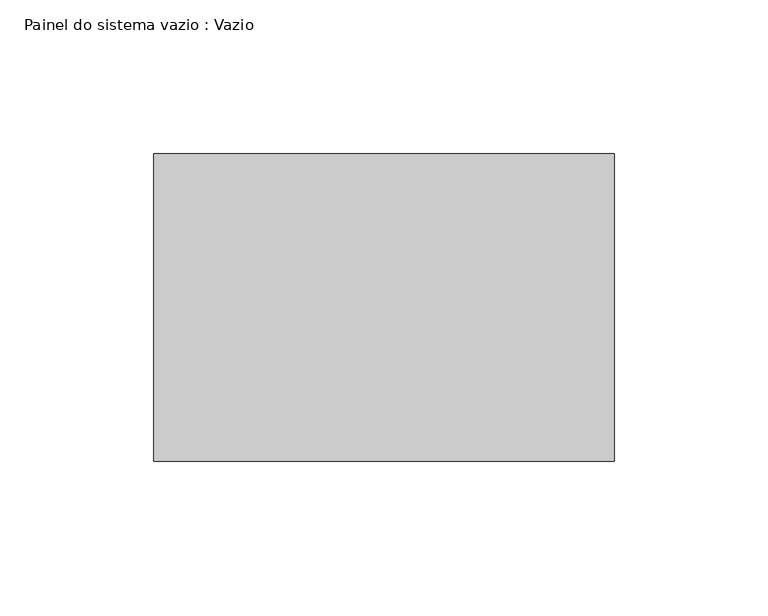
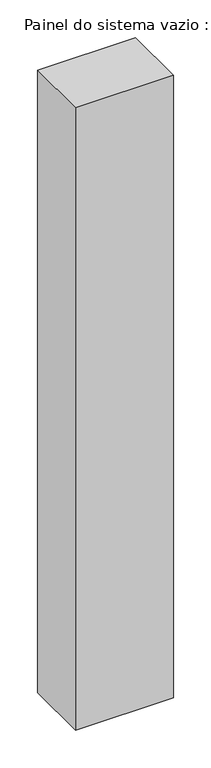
"""IFC4 building model written with IfcOpenShell, lengths in millimetres: plate geometry, Painel do sistema vazio : Vazio."""

from ifc_helpers import new_model, si_unit, origin, origin_with_axes, place, context, project, spatial, polyline, outline, extrude, source, transform, mapped, element, save


def painel_do_sistema_vazio_vazio_0994bb64(model_context):
    return source(origin(), model_context, "Body", "SweptSolid", [
        extrude(outline(polyline([(74.8149739, -50.0), (-74.8149739, -50.0), (-74.8149739, 50.0), (74.8149739, 50.0), (74.8149739, -50.0)])), origin_with_axes(), (0.0, 0.0, 1.0), 1005.0),
    ])


if __name__ == "__main__":
    model = new_model("IFC4")
    model_context = context("Model", 3, world=origin())
    ifc_project = project(units=[si_unit("LENGTHUNIT", "METRE", prefix="MILLI")], contexts=[model_context])
    site = spatial("IfcSite", under=ifc_project)
    building = spatial("IfcBuilding", under=site)
    placement = place(None, origin())
    painel_do_sistema_vazio_vazio_shape = painel_do_sistema_vazio_vazio_0994bb64(model_context)
    element("IfcPlate", 1, ObjectType="Painel do sistema vazio : Vazio", at=placement, inside=building, context=model_context, shape_type="MappedRepresentation", body=[
        mapped(painel_do_sistema_vazio_vazio_shape, transform((0.0, 0.0, 0.0), x_axis=(1.0, 0.0, 0.0), y_axis=(0.0, 1.0, 0.0), z_axis=(0.0, 0.0, 1.0))),
    ])
    save(model, "model.ifc")
